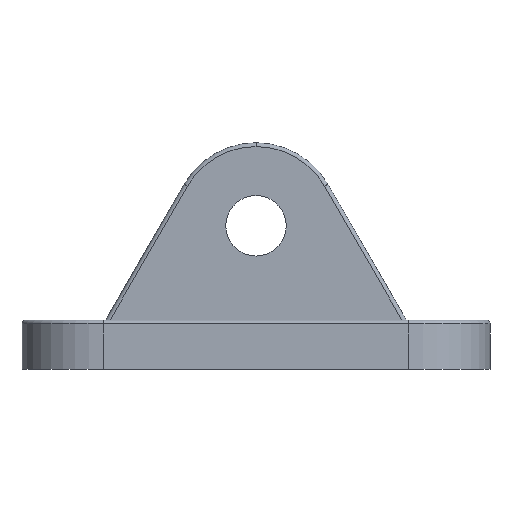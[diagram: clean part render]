
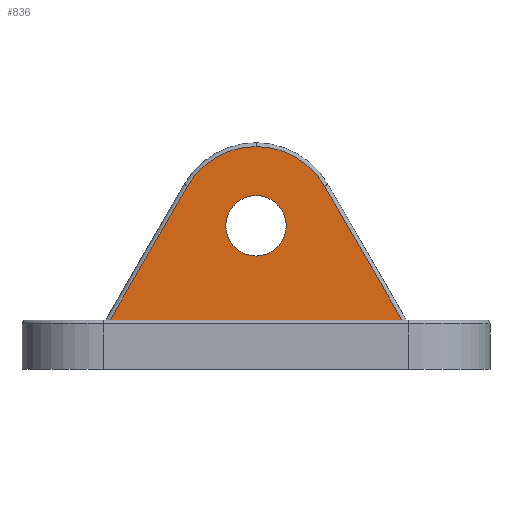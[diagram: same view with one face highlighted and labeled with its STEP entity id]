
A CAD part, front view. The second image highlights one B-rep face of the part: STEP entity #836.
In plain terms, the highlighted planar face has unit normal (0, -1, 0).
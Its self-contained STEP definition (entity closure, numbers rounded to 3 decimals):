
#5 = AXIS2_PLACEMENT_3D ( 'NONE', #1099, #826, #1537 ) ;
#13 = FACE_OUTER_BOUND ( 'NONE', #945, .T. ) ;
#17 = DIRECTION ( 'NONE',  ( 0., 0., 1. ) ) ;
#24 = CARTESIAN_POINT ( 'NONE',  ( 0., -10., 19. ) ) ;
#27 = VERTEX_POINT ( 'NONE', #978 ) ;
#50 = DIRECTION ( 'NONE',  ( 0., -1., 0. ) ) ;
#74 = VERTEX_POINT ( 'NONE', #1688 ) ;
#76 = EDGE_CURVE ( 'NONE', #544, #571, #1806, .T. ) ;
#84 = EDGE_CURVE ( 'NONE', #27, #417, #211, .T. ) ;
#111 = DIRECTION ( 'NONE',  ( 0., 1., 0. ) ) ;
#123 = VECTOR ( 'NONE', #1459, 1000. ) ;
#171 = AXIS2_PLACEMENT_3D ( 'NONE', #1152, #319, #1471 ) ;
#177 = ORIENTED_EDGE ( 'NONE', *, *, #76, .T. ) ;
#209 = ORIENTED_EDGE ( 'NONE', *, *, #388, .T. ) ;
#211 = LINE ( 'NONE', #1272, #1501 ) ;
#303 = LINE ( 'NONE', #1498, #1758 ) ;
#319 = DIRECTION ( 'NONE',  ( 0., -1., 0. ) ) ;
#350 = CARTESIAN_POINT ( 'NONE',  ( 0., -10., 15. ) ) ;
#388 = EDGE_CURVE ( 'NONE', #27, #1103, #303, .T. ) ;
#417 = VERTEX_POINT ( 'NONE', #1086 ) ;
#544 = VERTEX_POINT ( 'NONE', #350 ) ;
#563 = DIRECTION ( 'NONE',  ( -1., 0., 0. ) ) ;
#571 = VERTEX_POINT ( 'NONE', #615 ) ;
#598 = CARTESIAN_POINT ( 'NONE',  ( 9.093, -10., 24.25 ) ) ;
#615 = CARTESIAN_POINT ( 'NONE',  ( 0., -10., 23. ) ) ;
#636 = CIRCLE ( 'NONE', #980, 10.5 ) ;
#644 = DIRECTION ( 'NONE',  ( -0.5, 0., 0.866 ) ) ;
#826 = DIRECTION ( 'NONE',  ( 0., 1., 0. ) ) ;
#835 = DIRECTION ( 'NONE',  ( 0., 0., 1. ) ) ;
#836 = ADVANCED_FACE ( 'NONE', ( #1741, #13 ), #1244, .F. ) ;
#864 = CARTESIAN_POINT ( 'NONE',  ( 0., -10., 29.5 ) ) ;
#910 = ORIENTED_EDGE ( 'NONE', *, *, #84, .F. ) ;
#945 = EDGE_LOOP ( 'NONE', ( #1531, #1472, #1075, #910, #209 ) ) ;
#978 = CARTESIAN_POINT ( 'NONE',  ( 19.341, -10., 6.5 ) ) ;
#980 = AXIS2_PLACEMENT_3D ( 'NONE', #1732, #50, #1738 ) ;
#989 = DIRECTION ( 'NONE',  ( 0., 1., 0. ) ) ;
#1047 = EDGE_CURVE ( 'NONE', #74, #417, #1633, .T. ) ;
#1075 = ORIENTED_EDGE ( 'NONE', *, *, #1047, .T. ) ;
#1086 = CARTESIAN_POINT ( 'NONE',  ( -19.341, -10., 6.5 ) ) ;
#1088 = EDGE_CURVE ( 'NONE', #1103, #1796, #1591, .T. ) ;
#1099 = CARTESIAN_POINT ( 'NONE',  ( 0., -10., 19. ) ) ;
#1100 = EDGE_CURVE ( 'NONE', #1796, #74, #636, .T. ) ;
#1103 = VERTEX_POINT ( 'NONE', #598 ) ;
#1152 = CARTESIAN_POINT ( 'NONE',  ( 0., -10., 19. ) ) ;
#1244 = PLANE ( 'NONE',  #1411 ) ;
#1272 = CARTESIAN_POINT ( 'NONE',  ( -19.919, -10., 6.5 ) ) ;
#1382 = AXIS2_PLACEMENT_3D ( 'NONE', #24, #989, #17 ) ;
#1390 = CARTESIAN_POINT ( 'NONE',  ( 0., -10., 19. ) ) ;
#1411 = AXIS2_PLACEMENT_3D ( 'NONE', #1390, #111, #835 ) ;
#1459 = DIRECTION ( 'NONE',  ( -0.5, 0., -0.866 ) ) ;
#1471 = DIRECTION ( 'NONE',  ( 0., 0., 1. ) ) ;
#1472 = ORIENTED_EDGE ( 'NONE', *, *, #1100, .T. ) ;
#1495 = ORIENTED_EDGE ( 'NONE', *, *, #1535, .T. ) ;
#1498 = CARTESIAN_POINT ( 'NONE',  ( 9.093, -10., 24.25 ) ) ;
#1501 = VECTOR ( 'NONE', #563, 1000. ) ;
#1531 = ORIENTED_EDGE ( 'NONE', *, *, #1088, .T. ) ;
#1535 = EDGE_CURVE ( 'NONE', #571, #544, #1595, .T. ) ;
#1537 = DIRECTION ( 'NONE',  ( 0., 0., 1. ) ) ;
#1591 = CIRCLE ( 'NONE', #171, 10.5 ) ;
#1595 = CIRCLE ( 'NONE', #5, 4. ) ;
#1633 = LINE ( 'NONE', #1748, #123 ) ;
#1688 = CARTESIAN_POINT ( 'NONE',  ( -9.093, -10., 24.25 ) ) ;
#1732 = CARTESIAN_POINT ( 'NONE',  ( 0., -10., 19. ) ) ;
#1736 = EDGE_LOOP ( 'NONE', ( #1495, #177 ) ) ;
#1738 = DIRECTION ( 'NONE',  ( 0., 0., 1. ) ) ;
#1741 = FACE_BOUND ( 'NONE', #1736, .T. ) ;
#1748 = CARTESIAN_POINT ( 'NONE',  ( -19.486, -10., 6.25 ) ) ;
#1758 = VECTOR ( 'NONE', #644, 1000. ) ;
#1796 = VERTEX_POINT ( 'NONE', #864 ) ;
#1806 = CIRCLE ( 'NONE', #1382, 4. ) ;
